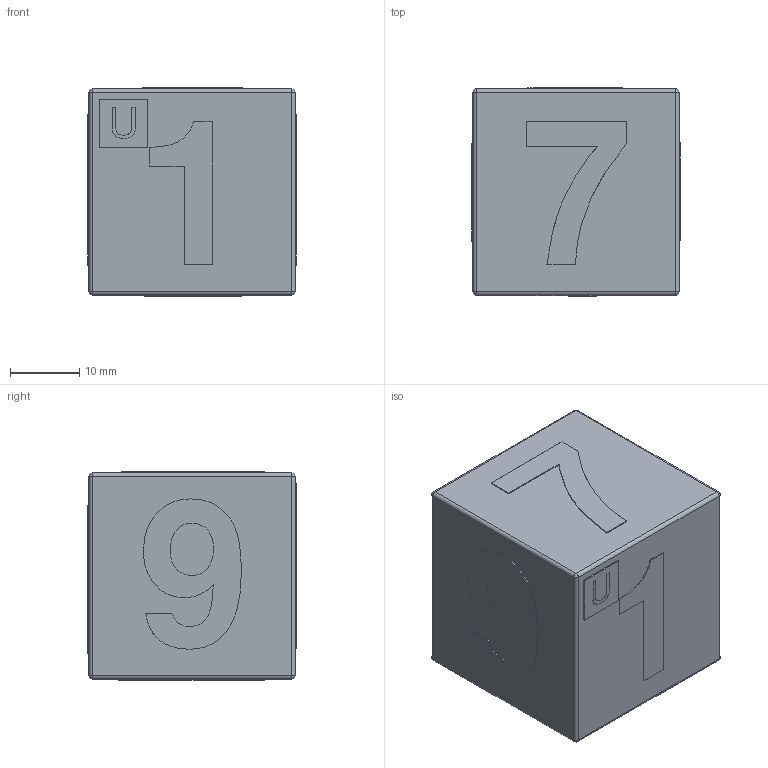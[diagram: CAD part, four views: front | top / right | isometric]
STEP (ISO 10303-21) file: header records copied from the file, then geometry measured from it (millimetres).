
FILE_DESCRIPTION(('Open CASCADE Model'),'2;1');
FILE_NAME('Open CASCADE Shape Model','2025-09-14T20:47:16',('Author'),( 'Open CASCADE'),'Open CASCADE STEP processor 7.8','Open CASCADE 7.8' ,'Unknown');
FILE_SCHEMA(('AUTOMOTIVE_DESIGN { 1 0 10303 214 1 1 1 1 }'));
Length unit declared in the file: millimetre
Products named in the file (20): 9e178dcc-91a3-11f0-88d2-1c1b0deae66b; 9e178fa2-91a3-11f0-88d2-1c1b0deae66b; 9e178fa2-91a3-11f0-88d2-1c1b0deae66b_part; 9e1aa25a-91a3-11f0-88d2-1c1b0deae66b; 9e1aa25a-91a3-11f0-88d2-1c1b0deae66b_part; 9e1c84da-91a3-11f0-88d2-1c1b0deae66b; 9e1c84da-91a3-11f0-88d2-1c1b0deae66b_part; 9e1dfc98-91a3-11f0-88d2-1c1b0deae66b; 9e1dfc98-91a3-11f0-88d2-1c1b0deae66b_part; 9e1fcb5e-91a3-11f0-88d2-1c1b0deae66b; 9e1fcb5e-91a3-11f0-88d2-1c1b0deae66b_part; 9e21069a-91a3-11f0-88d2-1c1b0deae66b; 9e21069a-91a3-11f0-88d2-1c1b0deae66b_part; 9e2277d2-91a3-11f0-88d2-1c1b0deae66b; 9e2277d2-91a3-11f0-88d2-1c1b0deae66b_part; 9e2c1cce-91a3-11f0-88d2-1c1b0deae66b; 9e2c1cce-91a3-11f0-88d2-1c1b0deae66b_part; 9e2c1e40-91a3-11f0-88d2-1c1b0deae66b; 9e2c1e40-91a3-11f0-88d2-1c1b0deae66b_part
Assembly tree (19 placements, depth 4):
  9e178dcc-91a3-11f0-88d2-1c1b0deae66b
    9e178dcc-91a3-11f0-88d2-1c1b0deae66b
      9e178fa2-91a3-11f0-88d2-1c1b0deae66b
        9e178fa2-91a3-11f0-88d2-1c1b0deae66b_part
      9e1aa25a-91a3-11f0-88d2-1c1b0deae66b
        9e1aa25a-91a3-11f0-88d2-1c1b0deae66b_part
      9e1c84da-91a3-11f0-88d2-1c1b0deae66b
        9e1c84da-91a3-11f0-88d2-1c1b0deae66b_part
      9e1dfc98-91a3-11f0-88d2-1c1b0deae66b
        9e1dfc98-91a3-11f0-88d2-1c1b0deae66b_part
      9e1fcb5e-91a3-11f0-88d2-1c1b0deae66b
        9e1fcb5e-91a3-11f0-88d2-1c1b0deae66b_part
      9e21069a-91a3-11f0-88d2-1c1b0deae66b
        9e21069a-91a3-11f0-88d2-1c1b0deae66b_part
      9e2277d2-91a3-11f0-88d2-1c1b0deae66b
        9e2277d2-91a3-11f0-88d2-1c1b0deae66b_part
      9e2c1cce-91a3-11f0-88d2-1c1b0deae66b
        9e2c1cce-91a3-11f0-88d2-1c1b0deae66b_part
      9e2c1e40-91a3-11f0-88d2-1c1b0deae66b
        9e2c1e40-91a3-11f0-88d2-1c1b0deae66b_part
Bounding box: 30 x 30 x 30 mm (x, y, z)
Volume: 26323.2 mm3; surface area: 7227.9 mm2
Topology: 9 solids, 9 shells, 205 faces, 545 edges, 350 vertices
Faces by surface type: extrusion 111, plane 74, cylinder 12, sphere 8
Entity records: 13756 total; most frequent: CARTESIAN_POINT 3328, DIRECTION 1498, VECTOR 1222, LINE 1111, ORIENTED_EDGE 1074, PCURVE 1074, DEFINITIONAL_REPRESENTATION 1074, B_SPLINE_CURVE_WITH_KNOTS 587
